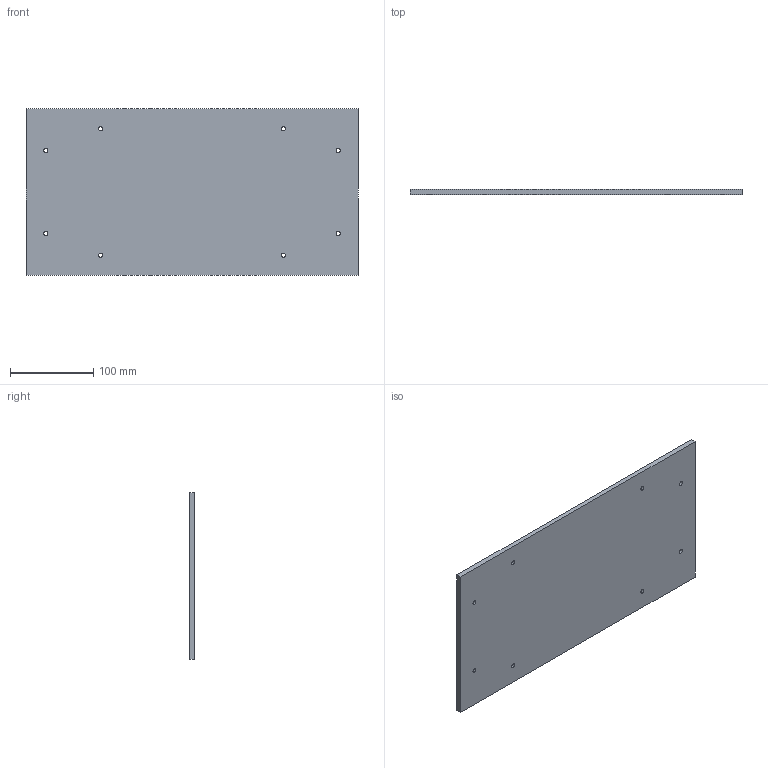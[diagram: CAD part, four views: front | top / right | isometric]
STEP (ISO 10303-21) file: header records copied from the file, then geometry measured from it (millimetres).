
FILE_DESCRIPTION (( 'STEP AP203' ), '1' );
FILE_NAME ('Base_Fond.STEP', '2026-06-24T07:29:49', ( '' ), ( '' ), 'SwSTEP 2.0', 'SolidWorks 2024', '' );
FILE_SCHEMA (( 'CONFIG_CONTROL_DESIGN' ));
Length unit declared in the file: millimetre
Products named in the file (1): Base_Fond_Interne
Bounding box: 400 x 6 x 200 mm (x, y, z)
Volume: 478739.2 mm3; surface area: 167534.2 mm2
Topology: 1 solids, 1 shells, 22 faces, 60 edges, 40 vertices
Faces by surface type: cylinder 8, cone 8, plane 6
Full cylindrical faces by diameter (mm): 5 x8
Entity records: 663 total; most frequent: DIRECTION 106, CARTESIAN_POINT 91, ORIENTED_EDGE 72, EDGE_LOOP 54, AXIS2_PLACEMENT_3D 47, EDGE_CURVE 36, VERTEX_POINT 32, FACE_OUTER_BOUND 30
